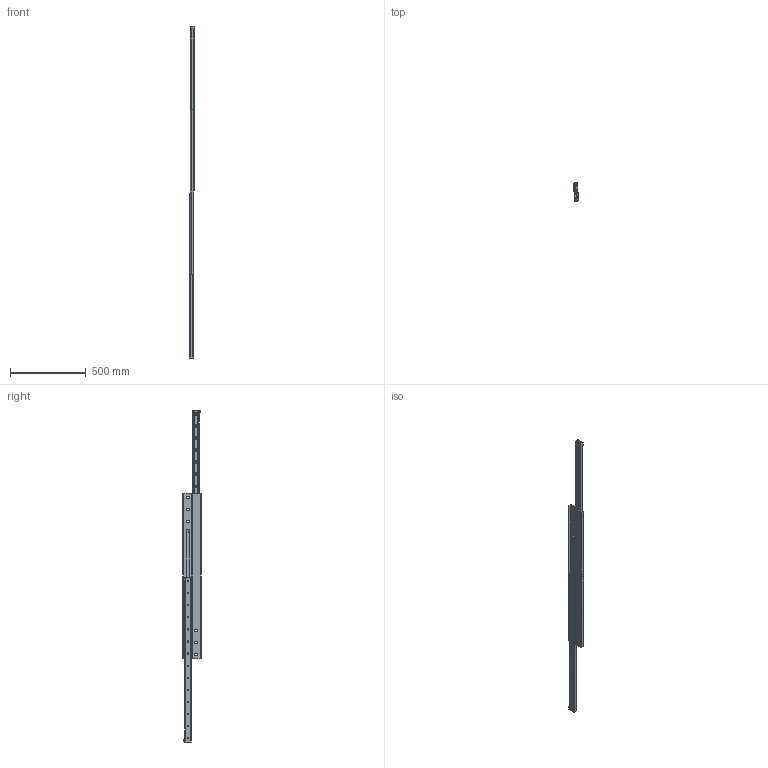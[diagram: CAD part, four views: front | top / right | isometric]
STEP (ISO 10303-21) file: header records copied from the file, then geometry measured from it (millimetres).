
FILE_DESCRIPTION(('STEP AP214'),'1');
FILE_NAME('rail_dss43-1090_01.stp','2017-04-17T04:00:31',('TraceParts'),('TraceParts S.A.'),'Spatial InterOp 3D',' ',' ');
FILE_SCHEMA(('automotive_design'));
Length unit declared in the file: millimetre
Products named in the file (3): rail_dss43-1090_01_1; rail_dss43-1090_01_2; rail_dss43-1090_01_3
Bounding box: 28 x 120 x 2196 mm (x, y, z)
Volume: 1957827.1 mm3; surface area: 782524.8 mm2
Topology: 3 solids, 3 shells, 314 faces, 838 edges, 540 vertices
Faces by surface type: plane 138, cylinder 120, cone 56
Entity records: 9987 total; most frequent: DIRECTION 1784, CARTESIAN_POINT 1695, ORIENTED_EDGE 1676, EDGE_CURVE 838, AXIS2_PLACEMENT_3D 629, VERTEX_POINT 540, LINE 526, VECTOR 526
